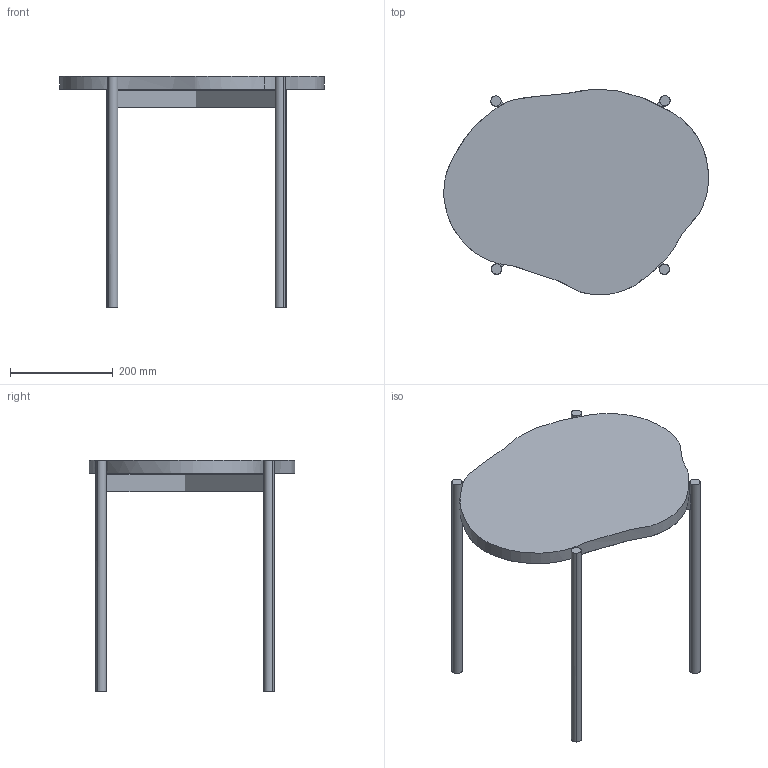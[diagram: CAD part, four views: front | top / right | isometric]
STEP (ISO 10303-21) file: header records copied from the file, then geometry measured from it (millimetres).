
FILE_DESCRIPTION(/* description */ (''),/* implementation_level */ '2;1');
FILE_NAME(/* name */ 'La Terre_S_Agnes Morguet',/* time_stamp */ '2021-02-22T14:22:14+01:00',/* author */ (''),/* organization */ (''),/* preprocessor_version */ 'ST-DEVELOPER v15',/* originating_system */ '',/* authorisation */ '');
FILE_SCHEMA (('AUTOMOTIVE_DESIGN'));
Length unit declared in the file: millimetre
Products named in the file (1): Document
Bounding box: 515.58 x 400.39 x 450 mm (x, y, z)
Volume: 4518050 mm3; surface area: 713693.9 mm2
Topology: 5 solids, 18 shells, 33 faces, 79 edges, 69 vertices
Faces by surface type: bspline 33
Entity records: 2453 total; most frequent: CARTESIAN_POINT 1401, B_SPLINE_CURVE_WITH_KNOTS 148, ORIENTED_EDGE 109, PCURVE 109, DEFINITIONAL_REPRESENTATION 109, SURFACE_CURVE 79, EDGE_CURVE 79, VERTEX_POINT 69
